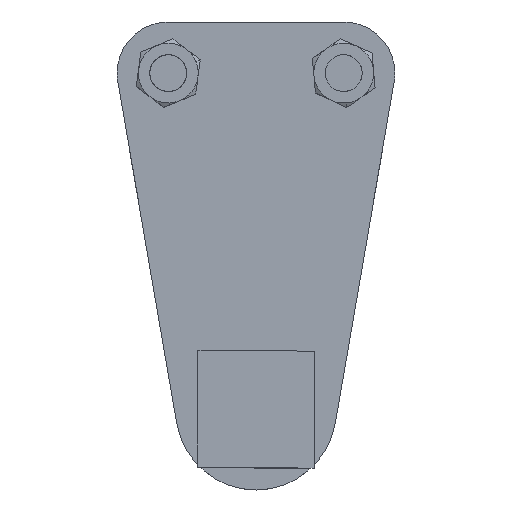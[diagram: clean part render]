
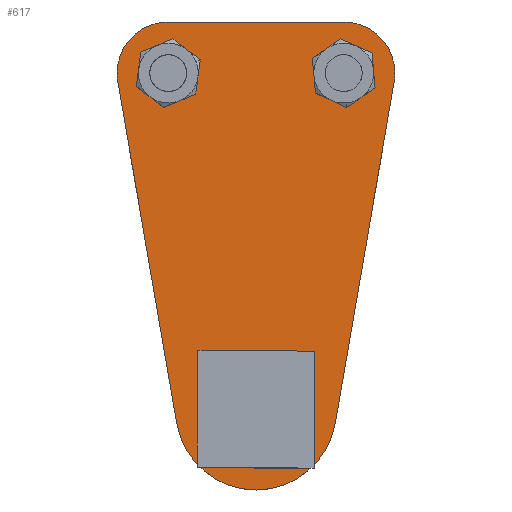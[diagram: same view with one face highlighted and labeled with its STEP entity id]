
A CAD part, top view. The second image highlights one B-rep face of the part: STEP entity #617.
In plain terms, the highlighted planar face has unit normal (0, 0, 1).
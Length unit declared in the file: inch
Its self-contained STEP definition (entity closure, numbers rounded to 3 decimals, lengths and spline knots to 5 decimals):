
#108=CARTESIAN_POINT('',(-0.75,0.,0.));
#109=DIRECTION('',(0.,0.,1.));
#110=DIRECTION('',(0.,1.,0.));
#111=AXIS2_PLACEMENT_3D('',#108,#109,#110);
#113=CARTESIAN_POINT('',(0.75,0.,0.));
#114=DIRECTION('',(0.,0.,1.));
#115=DIRECTION('',(1.,0.,0.));
#116=AXIS2_PLACEMENT_3D('',#113,#114,#115);
#118=CARTESIAN_POINT('',(0.75,0.,0.));
#119=DIRECTION('',(0.,0.,1.));
#120=DIRECTION('',(0.985,-0.17,0.));
#121=AXIS2_PLACEMENT_3D('',#118,#119,#120);
#123=DIRECTION('',(0.17,0.985,0.));
#124=VECTOR('',#123,2.96068);
#125=CARTESIAN_POINT('',(0.67748,-2.99195,0.));
#126=LINE('',#125,#124);
#127=CARTESIAN_POINT('',(0.,-2.875,0.));
#128=DIRECTION('',(0.,0.,1.));
#129=DIRECTION('',(-0.985,-0.17,0.));
#130=AXIS2_PLACEMENT_3D('',#127,#128,#129);
#132=DIRECTION('',(0.17,-0.985,0.));
#133=VECTOR('',#132,2.96068);
#134=CARTESIAN_POINT('',(-1.18112,-0.07442,0.));
#135=LINE('',#134,#133);
#136=CARTESIAN_POINT('',(-0.75,0.,0.));
#137=DIRECTION('',(0.,0.,1.));
#138=DIRECTION('',(-1.,0.,0.));
#139=AXIS2_PLACEMENT_3D('',#136,#137,#138);
#141=DIRECTION('',(0.,-1.,0.));
#142=VECTOR('',#141,0.32);
#143=CARTESIAN_POINT('',(-0.58,0.16,0.));
#144=LINE('',#143,#142);
#145=CARTESIAN_POINT('',(-0.59,0.16,0.));
#146=DIRECTION('',(0.,0.,-1.));
#147=DIRECTION('',(0.,1.,0.));
#148=AXIS2_PLACEMENT_3D('',#145,#146,#147);
#150=DIRECTION('',(1.,0.,0.));
#151=VECTOR('',#150,0.32);
#152=CARTESIAN_POINT('',(-0.91,0.17,0.));
#153=LINE('',#152,#151);
#154=CARTESIAN_POINT('',(-0.91,0.16,0.));
#155=DIRECTION('',(0.,0.,-1.));
#156=DIRECTION('',(-1.,0.,0.));
#157=AXIS2_PLACEMENT_3D('',#154,#155,#156);
#159=DIRECTION('',(0.,1.,0.));
#160=VECTOR('',#159,0.32);
#161=CARTESIAN_POINT('',(-0.92,-0.16,0.));
#162=LINE('',#161,#160);
#163=CARTESIAN_POINT('',(-0.91,-0.16,0.));
#164=DIRECTION('',(0.,0.,-1.));
#165=DIRECTION('',(0.,-1.,0.));
#166=AXIS2_PLACEMENT_3D('',#163,#164,#165);
#168=DIRECTION('',(-1.,0.,0.));
#169=VECTOR('',#168,0.32);
#170=CARTESIAN_POINT('',(-0.59,-0.17,0.));
#171=LINE('',#170,#169);
#172=CARTESIAN_POINT('',(-0.59,-0.16,0.));
#173=DIRECTION('',(0.,0.,-1.));
#174=DIRECTION('',(1.,0.,0.));
#175=AXIS2_PLACEMENT_3D('',#172,#173,#174);
#177=DIRECTION('',(0.,-1.,0.));
#178=VECTOR('',#177,0.32);
#179=CARTESIAN_POINT('',(0.92,0.16,0.));
#180=LINE('',#179,#178);
#181=CARTESIAN_POINT('',(0.91,0.16,0.));
#182=DIRECTION('',(0.,0.,-1.));
#183=DIRECTION('',(0.,1.,0.));
#184=AXIS2_PLACEMENT_3D('',#181,#182,#183);
#186=DIRECTION('',(1.,0.,0.));
#187=VECTOR('',#186,0.32);
#188=CARTESIAN_POINT('',(0.59,0.17,0.));
#189=LINE('',#188,#187);
#190=CARTESIAN_POINT('',(0.59,0.16,0.));
#191=DIRECTION('',(0.,0.,-1.));
#192=DIRECTION('',(-1.,0.,0.));
#193=AXIS2_PLACEMENT_3D('',#190,#191,#192);
#195=DIRECTION('',(0.,1.,0.));
#196=VECTOR('',#195,0.32);
#197=CARTESIAN_POINT('',(0.58,-0.16,0.));
#198=LINE('',#197,#196);
#199=CARTESIAN_POINT('',(0.59,-0.16,0.));
#200=DIRECTION('',(0.,0.,-1.));
#201=DIRECTION('',(0.,-1.,0.));
#202=AXIS2_PLACEMENT_3D('',#199,#200,#201);
#204=DIRECTION('',(-1.,0.,0.));
#205=VECTOR('',#204,0.32);
#206=CARTESIAN_POINT('',(0.91,-0.17,0.));
#207=LINE('',#206,#205);
#208=CARTESIAN_POINT('',(0.91,-0.16,0.));
#209=DIRECTION('',(0.,0.,-1.));
#210=DIRECTION('',(1.,0.,0.));
#211=AXIS2_PLACEMENT_3D('',#208,#209,#210);
#213=CARTESIAN_POINT('',(0.,-2.875,0.));
#214=DIRECTION('',(0.,0.,-1.));
#215=DIRECTION('',(-1.,0.,0.));
#216=AXIS2_PLACEMENT_3D('',#213,#214,#215);
#218=CARTESIAN_POINT('',(0.,-2.875,0.));
#219=DIRECTION('',(0.,0.,-1.));
#220=DIRECTION('',(1.,0.,0.));
#221=AXIS2_PLACEMENT_3D('',#218,#219,#220);
#223=DIRECTION('',(1.,0.,0.));
#224=VECTOR('',#223,1.5);
#225=CARTESIAN_POINT('',(-0.75,0.4375,0.));
#226=LINE('',#225,#224);
#340=CARTESIAN_POINT('',(0.59,0.17,0.));
#342=VERTEX_POINT('',#340);
#343=CARTESIAN_POINT('',(-0.75,0.4375,0.));
#344=CARTESIAN_POINT('',(-1.1875,0.,0.));
#345=VERTEX_POINT('',#343);
#346=VERTEX_POINT('',#344);
#347=CARTESIAN_POINT('',(-1.18112,-0.07442,0.));
#348=VERTEX_POINT('',#347);
#350=CARTESIAN_POINT('',(-0.58,0.16,0.));
#352=VERTEX_POINT('',#350);
#353=CARTESIAN_POINT('',(1.18112,-0.07442,0.));
#355=VERTEX_POINT('',#353);
#357=CARTESIAN_POINT('',(0.3175,-2.875,0.));
#358=CARTESIAN_POINT('',(-0.3175,-2.875,0.));
#359=VERTEX_POINT('',#357);
#360=VERTEX_POINT('',#358);
#361=CARTESIAN_POINT('',(0.75,0.4375,0.));
#362=VERTEX_POINT('',#361);
#363=CARTESIAN_POINT('',(-0.92,0.16,0.));
#364=CARTESIAN_POINT('',(-0.91,0.17,0.));
#365=VERTEX_POINT('',#363);
#366=VERTEX_POINT('',#364);
#372=CARTESIAN_POINT('',(-0.92,-0.16,0.));
#374=VERTEX_POINT('',#372);
#378=CARTESIAN_POINT('',(-0.59,-0.17,0.));
#380=VERTEX_POINT('',#378);
#385=CARTESIAN_POINT('',(-0.58,-0.16,0.));
#386=VERTEX_POINT('',#385);
#387=CARTESIAN_POINT('',(0.92,0.16,0.));
#388=CARTESIAN_POINT('',(0.92,-0.16,0.));
#389=VERTEX_POINT('',#387);
#390=VERTEX_POINT('',#388);
#397=CARTESIAN_POINT('',(-0.59,0.17,0.));
#398=VERTEX_POINT('',#397);
#401=CARTESIAN_POINT('',(-0.91,-0.17,0.));
#402=VERTEX_POINT('',#401);
#407=CARTESIAN_POINT('',(0.58,-0.16,0.));
#408=VERTEX_POINT('',#407);
#409=CARTESIAN_POINT('',(0.59,-0.17,0.));
#410=VERTEX_POINT('',#409);
#417=CARTESIAN_POINT('',(1.1875,0.,0.));
#418=VERTEX_POINT('',#417);
#421=CARTESIAN_POINT('',(0.91,-0.17,0.));
#422=VERTEX_POINT('',#421);
#423=CARTESIAN_POINT('',(0.58,0.16,0.));
#424=VERTEX_POINT('',#423);
#427=CARTESIAN_POINT('',(0.67748,-2.99195,0.));
#428=VERTEX_POINT('',#427);
#429=CARTESIAN_POINT('',(-0.67748,-2.99195,0.));
#430=VERTEX_POINT('',#429);
#439=CARTESIAN_POINT('',(0.91,0.17,0.));
#440=VERTEX_POINT('',#439);
#556=CARTESIAN_POINT('',(-0.75,0.,0.));
#557=DIRECTION('',(0.,0.,1.));
#558=DIRECTION('',(1.,0.,0.));
#559=AXIS2_PLACEMENT_3D('',#556,#557,#558);
#560=PLANE('',#559);
#561=ORIENTED_EDGE('',*,*,#551,.F.);
#563=ORIENTED_EDGE('',*,*,#562,.T.);
#564=ORIENTED_EDGE('',*,*,#450,.F.);
#565=ORIENTED_EDGE('',*,*,#468,.F.);
#567=ORIENTED_EDGE('',*,*,#566,.F.);
#569=ORIENTED_EDGE('',*,*,#568,.F.);
#571=ORIENTED_EDGE('',*,*,#570,.F.);
#572=ORIENTED_EDGE('',*,*,#543,.F.);
#573=EDGE_LOOP('',(#561,#563,#564,#565,#567,#569,#571,#572));
#574=FACE_OUTER_BOUND('',#573,.F.);
#576=ORIENTED_EDGE('',*,*,#575,.F.);
#578=ORIENTED_EDGE('',*,*,#577,.F.);
#580=ORIENTED_EDGE('',*,*,#579,.F.);
#582=ORIENTED_EDGE('',*,*,#581,.F.);
#584=ORIENTED_EDGE('',*,*,#583,.F.);
#586=ORIENTED_EDGE('',*,*,#585,.F.);
#588=ORIENTED_EDGE('',*,*,#587,.F.);
#590=ORIENTED_EDGE('',*,*,#589,.F.);
#591=EDGE_LOOP('',(#576,#578,#580,#582,#584,#586,#588,#590));
#592=FACE_BOUND('',#591,.F.);
#594=ORIENTED_EDGE('',*,*,#593,.F.);
#596=ORIENTED_EDGE('',*,*,#595,.F.);
#598=ORIENTED_EDGE('',*,*,#597,.F.);
#600=ORIENTED_EDGE('',*,*,#599,.F.);
#602=ORIENTED_EDGE('',*,*,#601,.F.);
#604=ORIENTED_EDGE('',*,*,#603,.F.);
#606=ORIENTED_EDGE('',*,*,#605,.F.);
#608=ORIENTED_EDGE('',*,*,#607,.F.);
#609=EDGE_LOOP('',(#594,#596,#598,#600,#602,#604,#606,#608));
#610=FACE_BOUND('',#609,.F.);
#612=ORIENTED_EDGE('',*,*,#611,.F.);
#614=ORIENTED_EDGE('',*,*,#613,.F.);
#615=EDGE_LOOP('',(#612,#614));
#616=FACE_BOUND('',#615,.F.);
#112=CIRCLE('',#111,0.4375);
#117=CIRCLE('',#116,0.4375);
#122=CIRCLE('',#121,0.4375);
#131=CIRCLE('',#130,0.6875);
#140=CIRCLE('',#139,0.4375);
#149=CIRCLE('',#148,0.01);
#158=CIRCLE('',#157,0.01);
#167=CIRCLE('',#166,0.01);
#176=CIRCLE('',#175,0.01);
#185=CIRCLE('',#184,0.01);
#194=CIRCLE('',#193,0.01);
#203=CIRCLE('',#202,0.01);
#212=CIRCLE('',#211,0.01);
#217=CIRCLE('',#216,0.3175);
#222=CIRCLE('',#221,0.3175);
#450=EDGE_CURVE('',#418,#362,#117,.T.);
#468=EDGE_CURVE('',#355,#418,#122,.T.);
#543=EDGE_CURVE('',#346,#348,#140,.T.);
#551=EDGE_CURVE('',#345,#346,#112,.T.);
#562=EDGE_CURVE('',#345,#362,#226,.T.);
#566=EDGE_CURVE('',#428,#355,#126,.T.);
#568=EDGE_CURVE('',#430,#428,#131,.T.);
#570=EDGE_CURVE('',#348,#430,#135,.T.);
#575=EDGE_CURVE('',#352,#386,#144,.T.);
#577=EDGE_CURVE('',#398,#352,#149,.T.);
#579=EDGE_CURVE('',#366,#398,#153,.T.);
#581=EDGE_CURVE('',#365,#366,#158,.T.);
#583=EDGE_CURVE('',#374,#365,#162,.T.);
#585=EDGE_CURVE('',#402,#374,#167,.T.);
#587=EDGE_CURVE('',#380,#402,#171,.T.);
#589=EDGE_CURVE('',#386,#380,#176,.T.);
#593=EDGE_CURVE('',#389,#390,#180,.T.);
#595=EDGE_CURVE('',#440,#389,#185,.T.);
#597=EDGE_CURVE('',#342,#440,#189,.T.);
#599=EDGE_CURVE('',#424,#342,#194,.T.);
#601=EDGE_CURVE('',#408,#424,#198,.T.);
#603=EDGE_CURVE('',#410,#408,#203,.T.);
#605=EDGE_CURVE('',#422,#410,#207,.T.);
#607=EDGE_CURVE('',#390,#422,#212,.T.);
#611=EDGE_CURVE('',#360,#359,#217,.T.);
#613=EDGE_CURVE('',#359,#360,#222,.T.);
#617=ADVANCED_FACE('',(#574,#592,#610,#616),#560,.T.);
